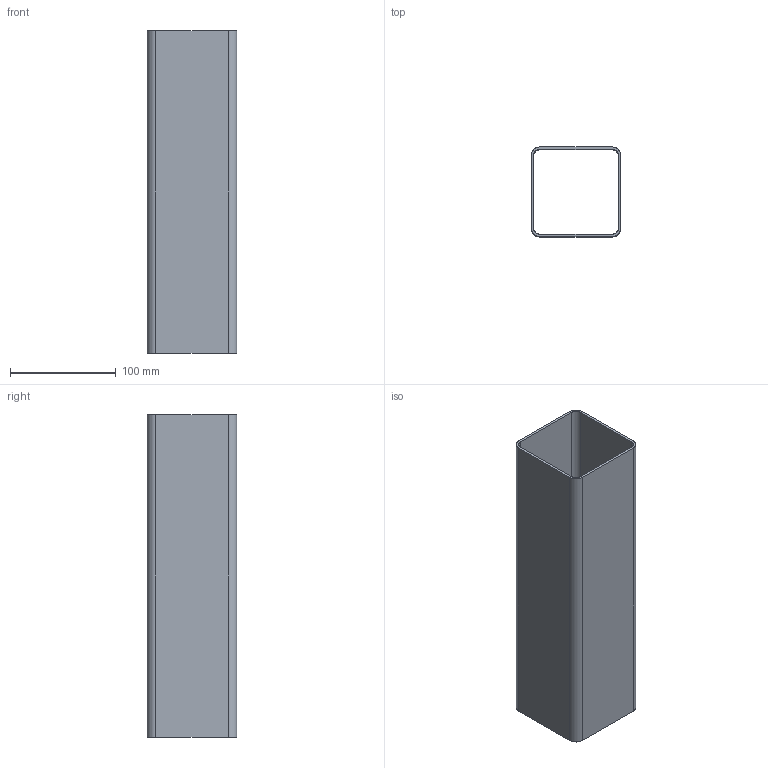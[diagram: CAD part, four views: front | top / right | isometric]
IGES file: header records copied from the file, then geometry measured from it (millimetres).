
Start section: SolidWorks IGES file using analytic representation for surfaces
Global section: file name: O:\Database\Dumb Solids - Coupling & Gussets\DRP-002-0001-06.IGS; native system: SolidWorks 2011; preprocessor: SolidWorks 2011; author: mbush2; date: 111205.153632; units: inch
Bounding box: 84.66 x 84.66 x 304.8 mm (x, y, z)
Surface area: 195188.7 mm2 (no closed solid volume)
Topology: 0 solids, 0 shells, 18 faces, 208 edges, 208 vertices
Faces by surface type: bspline 10, revolution 8
